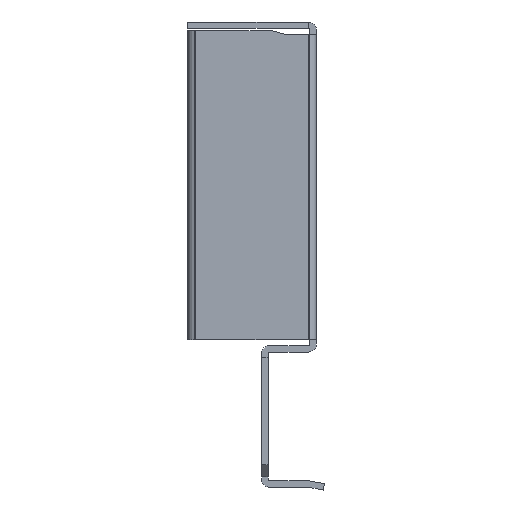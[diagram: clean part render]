
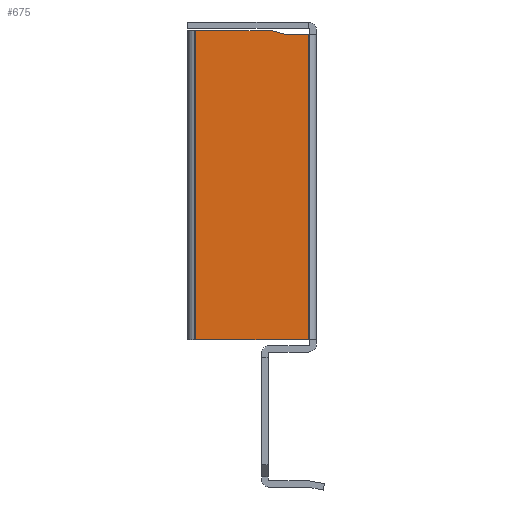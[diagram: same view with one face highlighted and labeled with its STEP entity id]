
A CAD part, left-side view. The second image highlights one B-rep face of the part: STEP entity #675.
In plain terms, the highlighted planar face has unit normal (-1, 0, 0).
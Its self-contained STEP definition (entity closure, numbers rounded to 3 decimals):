
#104 = DIRECTION ( 'NONE',  ( 0., -1., 0. ) ) ;
#105 = DIRECTION ( 'NONE',  ( -1., 0., 0. ) ) ;
#106 = CARTESIAN_POINT ( 'NONE',  ( -355., -5., 74.385 ) ) ;
#107 = PLANE ( 'NONE',  #2109 ) ;
#123 = VERTEX_POINT ( 'NONE', #409 ) ;
#213 = VERTEX_POINT ( 'NONE', #387 ) ;
#303 = CARTESIAN_POINT ( 'NONE',  ( -355., -5., 55.5 ) ) ;
#321 = CARTESIAN_POINT ( 'NONE',  ( -355., 9., 17.5 ) ) ;
#330 = CARTESIAN_POINT ( 'NONE',  ( -355., -5., 17.5 ) ) ;
#370 = CARTESIAN_POINT ( 'NONE',  ( -355., -0.507, 55.9 ) ) ;
#387 = CARTESIAN_POINT ( 'NONE',  ( -355., -2., 55.5 ) ) ;
#409 = CARTESIAN_POINT ( 'NONE',  ( -355., 9., 55.9 ) ) ;
#435 = VERTEX_POINT ( 'NONE', #370 ) ;
#477 = VERTEX_POINT ( 'NONE', #330 ) ;
#501 = VERTEX_POINT ( 'NONE', #321 ) ;
#517 = VERTEX_POINT ( 'NONE', #303 ) ;
#675 = ADVANCED_FACE ( 'NONE', ( #1400 ), #107, .T. ) ;
#874 = EDGE_LOOP ( 'NONE', ( #1254, #1255, #1256, #1257, #1258, #1259 ) ) ;
#1254 = ORIENTED_EDGE ( 'NONE', *, *, #1905, .F. ) ;
#1255 = ORIENTED_EDGE ( 'NONE', *, *, #1906, .F. ) ;
#1256 = ORIENTED_EDGE ( 'NONE', *, *, #1896, .T. ) ;
#1257 = ORIENTED_EDGE ( 'NONE', *, *, #1904, .T. ) ;
#1258 = ORIENTED_EDGE ( 'NONE', *, *, #1888, .F. ) ;
#1259 = ORIENTED_EDGE ( 'NONE', *, *, #1907, .F. ) ;
#1400 = FACE_OUTER_BOUND ( 'NONE', #874, .T. ) ;
#1513 = LINE ( 'NONE', #2475, #1515 ) ;
#1515 = VECTOR ( 'NONE', #2474, 1000. ) ;
#1526 = LINE ( 'NONE', #2448, #1528 ) ;
#1528 = VECTOR ( 'NONE', #2447, 1000. ) ;
#1541 = LINE ( 'NONE', #2423, #1542 ) ;
#1542 = VECTOR ( 'NONE', #2422, 1000. ) ;
#1543 = LINE ( 'NONE', #2419, #1544 ) ;
#1544 = VECTOR ( 'NONE', #2418, 1000. ) ;
#1545 = LINE ( 'NONE', #2417, #1546 ) ;
#1546 = VECTOR ( 'NONE', #2416, 1000. ) ;
#1547 = LINE ( 'NONE', #2414, #1548 ) ;
#1548 = VECTOR ( 'NONE', #2413, 1000. ) ;
#1888 = EDGE_CURVE ( 'NONE', #477, #501, #1513, .T. ) ;
#1896 = EDGE_CURVE ( 'NONE', #435, #123, #1526, .T. ) ;
#1904 = EDGE_CURVE ( 'NONE', #123, #501, #1541, .T. ) ;
#1905 = EDGE_CURVE ( 'NONE', #213, #517, #1543, .T. ) ;
#1906 = EDGE_CURVE ( 'NONE', #435, #213, #1545, .T. ) ;
#1907 = EDGE_CURVE ( 'NONE', #517, #477, #1547, .T. ) ;
#2109 = AXIS2_PLACEMENT_3D ( 'NONE', #106, #105, #104 ) ;
#2413 = DIRECTION ( 'NONE',  ( 0., 0., -1. ) ) ;
#2414 = CARTESIAN_POINT ( 'NONE',  ( -355., -5., 74.385 ) ) ;
#2416 = DIRECTION ( 'NONE',  ( 0., -0.966, -0.259 ) ) ;
#2417 = CARTESIAN_POINT ( 'NONE',  ( -355., 0.612, 56.2 ) ) ;
#2418 = DIRECTION ( 'NONE',  ( 0., -1., 0. ) ) ;
#2419 = CARTESIAN_POINT ( 'NONE',  ( -355., -2., 55.5 ) ) ;
#2422 = DIRECTION ( 'NONE',  ( 0., 0., -1. ) ) ;
#2423 = CARTESIAN_POINT ( 'NONE',  ( -355., 9., 74.385 ) ) ;
#2447 = DIRECTION ( 'NONE',  ( 0., 1., 0. ) ) ;
#2448 = CARTESIAN_POINT ( 'NONE',  ( -355., -5., 55.9 ) ) ;
#2474 = DIRECTION ( 'NONE',  ( 0., 1., 0. ) ) ;
#2475 = CARTESIAN_POINT ( 'NONE',  ( -355., -5., 17.5 ) ) ;
